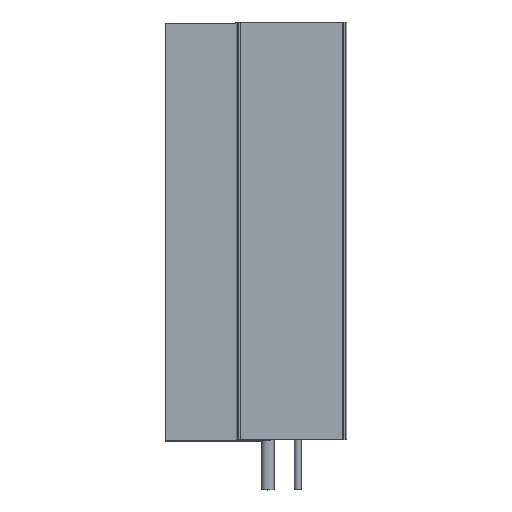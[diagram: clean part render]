
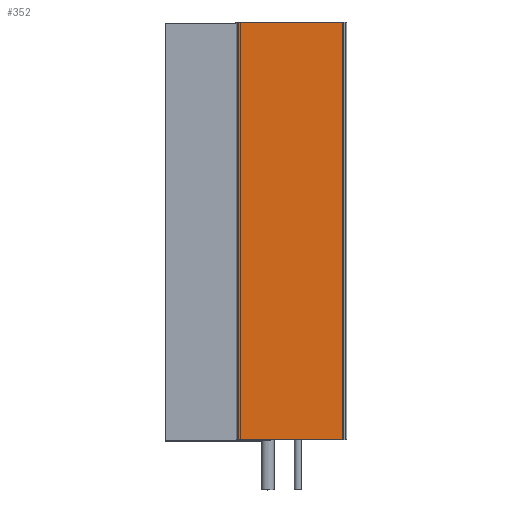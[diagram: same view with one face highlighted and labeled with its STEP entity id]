
A CAD part, top view. The second image highlights one B-rep face of the part: STEP entity #352.
In plain terms, the highlighted planar face has unit normal (0, 0, 1).
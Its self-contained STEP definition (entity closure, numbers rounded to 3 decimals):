
#352 = ADVANCED_FACE( '', ( #783 ), #784, .T. );
#783 = FACE_OUTER_BOUND( '', #1669, .T. );
#784 = PLANE( '', #1670 );
#1669 = EDGE_LOOP( '', ( #2608, #2609, #2610, #2611 ) );
#1670 = AXIS2_PLACEMENT_3D( '', #2612, #2613, #2614 );
#2608 = ORIENTED_EDGE( '', *, *, #6183, .F. );
#2609 = ORIENTED_EDGE( '', *, *, #6196, .F. );
#2610 = ORIENTED_EDGE( '', *, *, #6194, .T. );
#2611 = ORIENTED_EDGE( '', *, *, #6190, .T. );
#2612 = CARTESIAN_POINT( '', ( 36.5, 289.8, 27. ) );
#2613 = DIRECTION( '', ( 0., 0., 1. ) );
#2614 = DIRECTION( '', ( 1., 0., 0. ) );
#6183 = EDGE_CURVE( '', #7378, #7380, #7381, .T. );
#6190 = EDGE_CURVE( '', #7391, #7380, #7392, .T. );
#6194 = EDGE_CURVE( '', #7397, #7391, #7398, .T. );
#6196 = EDGE_CURVE( '', #7397, #7378, #7400, .T. );
#7378 = VERTEX_POINT( '', #9367 );
#7380 = VERTEX_POINT( '', #9370 );
#7381 = LINE( '', #9371, #9372 );
#7391 = VERTEX_POINT( '', #9388 );
#7392 = LINE( '', #9389, #9390 );
#7397 = VERTEX_POINT( '', #9398 );
#7398 = LINE( '', #9399, #9400 );
#7400 = LINE( '', #9403, #9404 );
#9367 = CARTESIAN_POINT( '', ( 36.5, 0., 27. ) );
#9370 = CARTESIAN_POINT( '', ( -36.5, 0., 27. ) );
#9371 = CARTESIAN_POINT( '', ( 36.5, 0., 27. ) );
#9372 = VECTOR( '', #12287, 1000. );
#9388 = CARTESIAN_POINT( '', ( -36.5, 289.8, 27. ) );
#9389 = CARTESIAN_POINT( '', ( -36.5, 289.8, 27. ) );
#9390 = VECTOR( '', #12294, 1000. );
#9398 = CARTESIAN_POINT( '', ( 36.5, 289.8, 27. ) );
#9399 = CARTESIAN_POINT( '', ( 36.5, 289.8, 27. ) );
#9400 = VECTOR( '', #12298, 1000. );
#9403 = CARTESIAN_POINT( '', ( 36.5, 289.8, 27. ) );
#9404 = VECTOR( '', #12300, 1000. );
#12287 = DIRECTION( '', ( -1., 0., 0. ) );
#12294 = DIRECTION( '', ( 0., -1., 0. ) );
#12298 = DIRECTION( '', ( -1., 0., 0. ) );
#12300 = DIRECTION( '', ( 0., -1., 0. ) );
